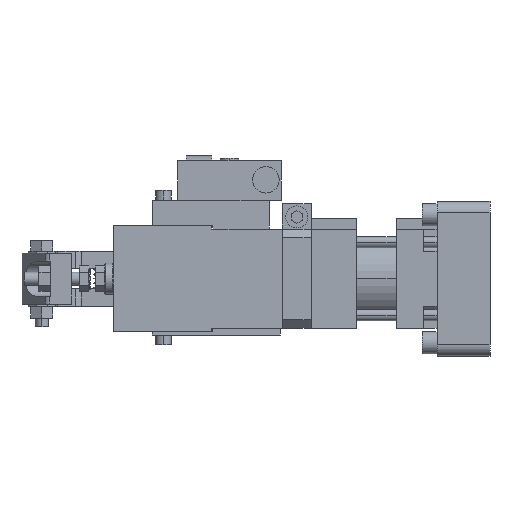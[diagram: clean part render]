
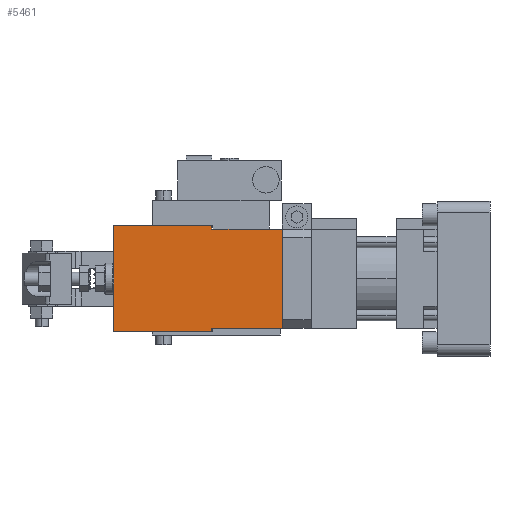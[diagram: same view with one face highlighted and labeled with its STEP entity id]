
A CAD part, left-side view. The second image highlights one B-rep face of the part: STEP entity #5461.
In plain terms, the highlighted planar face has unit normal (-1, 0, 0).
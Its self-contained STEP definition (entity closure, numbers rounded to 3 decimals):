
#824 = AXIS2_PLACEMENT_3D ( 'NONE', #14736, #20539, #9066 ) ;
#1059 = VERTEX_POINT ( 'NONE', #21590 ) ;
#1357 = ORIENTED_EDGE ( 'NONE', *, *, #21503, .T. ) ;
#1652 = EDGE_CURVE ( 'NONE', #14543, #1059, #17506, .T. ) ;
#2170 = VECTOR ( 'NONE', #15663, 1000. ) ;
#2300 = VECTOR ( 'NONE', #18322, 1000. ) ;
#2438 = VERTEX_POINT ( 'NONE', #20757 ) ;
#2875 = ORIENTED_EDGE ( 'NONE', *, *, #17770, .F. ) ;
#3070 = CARTESIAN_POINT ( 'NONE',  ( -22.5, -8., 24. ) ) ;
#3113 = LINE ( 'NONE', #14259, #17720 ) ;
#3931 = EDGE_CURVE ( 'NONE', #8135, #17854, #11258, .T. ) ;
#4177 = CARTESIAN_POINT ( 'NONE',  ( -22.5, -8., 24. ) ) ;
#4555 = CARTESIAN_POINT ( 'NONE',  ( -22.5, -8., -24. ) ) ;
#4598 = ORIENTED_EDGE ( 'NONE', *, *, #3931, .T. ) ;
#5195 = VERTEX_POINT ( 'NONE', #8156 ) ;
#5461 = ADVANCED_FACE ( 'NONE', ( #19874 ), #12794, .F. ) ;
#6003 = VECTOR ( 'NONE', #18909, 1000. ) ;
#6186 = VECTOR ( 'NONE', #18060, 1000. ) ;
#6305 = ORIENTED_EDGE ( 'NONE', *, *, #8394, .F. ) ;
#6700 = DIRECTION ( 'NONE',  ( 0., 0., -1. ) ) ;
#6779 = CARTESIAN_POINT ( 'NONE',  ( -22.5, 22., -22.5 ) ) ;
#7183 = ORIENTED_EDGE ( 'NONE', *, *, #1652, .F. ) ;
#7240 = LINE ( 'NONE', #18153, #8411 ) ;
#8135 = VERTEX_POINT ( 'NONE', #4555 ) ;
#8156 = CARTESIAN_POINT ( 'NONE',  ( -22.5, 36.5, -24. ) ) ;
#8394 = EDGE_CURVE ( 'NONE', #5195, #23155, #21324, .T. ) ;
#8411 = VECTOR ( 'NONE', #6700, 1000. ) ;
#8521 = DIRECTION ( 'NONE',  ( 0., -1., 0. ) ) ;
#9066 = DIRECTION ( 'NONE',  ( 0., 1., 0. ) ) ;
#9413 = VECTOR ( 'NONE', #20159, 1000. ) ;
#11085 = LINE ( 'NONE', #11200, #6003 ) ;
#11200 = CARTESIAN_POINT ( 'NONE',  ( -22.5, 22., -24. ) ) ;
#11258 = LINE ( 'NONE', #16041, #6186 ) ;
#11565 = EDGE_CURVE ( 'NONE', #2438, #16171, #7240, .T. ) ;
#11641 = LINE ( 'NONE', #13704, #2170 ) ;
#12794 = PLANE ( 'NONE',  #824 ) ;
#13425 = ORIENTED_EDGE ( 'NONE', *, *, #11565, .F. ) ;
#13442 = EDGE_LOOP ( 'NONE', ( #17920, #6305, #1357, #4598, #19132, #13425, #2875, #7183 ) ) ;
#13704 = CARTESIAN_POINT ( 'NONE',  ( -22.5, 22., 22.5 ) ) ;
#14259 = CARTESIAN_POINT ( 'NONE',  ( -22.5, 22., 24. ) ) ;
#14543 = VERTEX_POINT ( 'NONE', #4177 ) ;
#14736 = CARTESIAN_POINT ( 'NONE',  ( -22.5, 22., 12.5 ) ) ;
#15641 = VECTOR ( 'NONE', #21157, 1000. ) ;
#15663 = DIRECTION ( 'NONE',  ( 0., -1., 0. ) ) ;
#16041 = CARTESIAN_POINT ( 'NONE',  ( -22.5, -8., -24. ) ) ;
#16171 = VERTEX_POINT ( 'NONE', #21864 ) ;
#17506 = LINE ( 'NONE', #3070, #2300 ) ;
#17720 = VECTOR ( 'NONE', #8521, 1000. ) ;
#17770 = EDGE_CURVE ( 'NONE', #1059, #2438, #11641, .T. ) ;
#17854 = VERTEX_POINT ( 'NONE', #23439 ) ;
#17920 = ORIENTED_EDGE ( 'NONE', *, *, #21973, .F. ) ;
#18060 = DIRECTION ( 'NONE',  ( 0., 0., 1. ) ) ;
#18153 = CARTESIAN_POINT ( 'NONE',  ( -22.5, -40., 12.5 ) ) ;
#18322 = DIRECTION ( 'NONE',  ( 0., 0., -1. ) ) ;
#18423 = CARTESIAN_POINT ( 'NONE',  ( -22.5, 36.5, 24. ) ) ;
#18909 = DIRECTION ( 'NONE',  ( 0., -1., 0. ) ) ;
#19132 = ORIENTED_EDGE ( 'NONE', *, *, #23749, .T. ) ;
#19227 = CARTESIAN_POINT ( 'NONE',  ( -22.5, 36.5, 24. ) ) ;
#19874 = FACE_OUTER_BOUND ( 'NONE', #13442, .T. ) ;
#20159 = DIRECTION ( 'NONE',  ( 0., -1., 0. ) ) ;
#20539 = DIRECTION ( 'NONE',  ( 1., 0., 0. ) ) ;
#20757 = CARTESIAN_POINT ( 'NONE',  ( -22.5, -40., 22.5 ) ) ;
#21157 = DIRECTION ( 'NONE',  ( 0., 0., 1. ) ) ;
#21324 = LINE ( 'NONE', #19227, #15641 ) ;
#21503 = EDGE_CURVE ( 'NONE', #5195, #8135, #11085, .T. ) ;
#21590 = CARTESIAN_POINT ( 'NONE',  ( -22.5, -8., 22.5 ) ) ;
#21864 = CARTESIAN_POINT ( 'NONE',  ( -22.5, -40., -22.5 ) ) ;
#21973 = EDGE_CURVE ( 'NONE', #23155, #14543, #3113, .T. ) ;
#23155 = VERTEX_POINT ( 'NONE', #18423 ) ;
#23439 = CARTESIAN_POINT ( 'NONE',  ( -22.5, -8., -22.5 ) ) ;
#23749 = EDGE_CURVE ( 'NONE', #17854, #16171, #24085, .T. ) ;
#24085 = LINE ( 'NONE', #6779, #9413 ) ;
